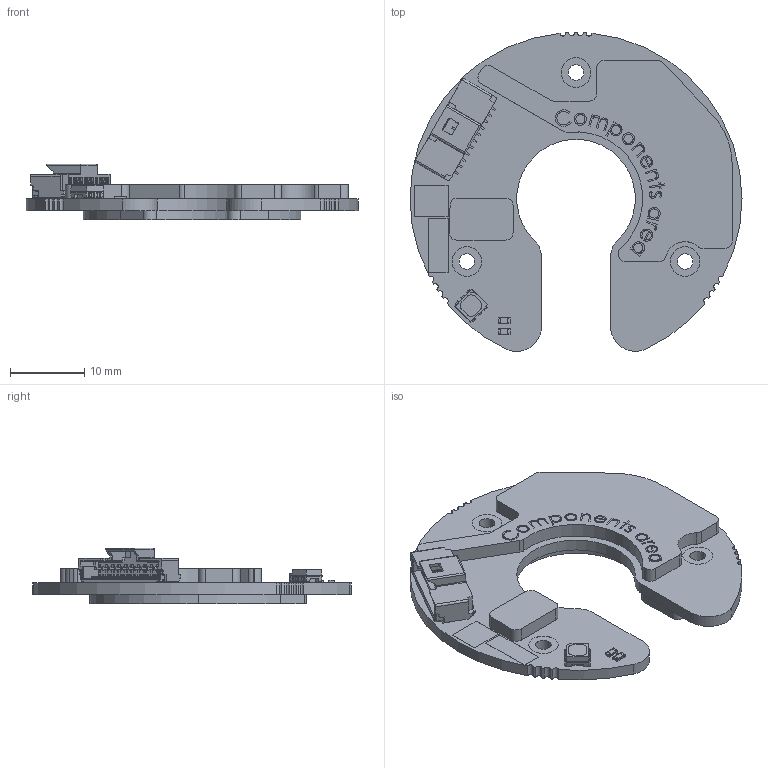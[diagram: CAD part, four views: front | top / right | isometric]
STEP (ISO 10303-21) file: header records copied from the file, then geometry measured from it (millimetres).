
FILE_DESCRIPTION (( 'STEP AP214' ), '1' );
FILE_NAME ('Orbis_fi16_v04_s_konektorjem_pokrov.STEP', '2024-01-23T06:50:48', ( '' ), ( '' ), 'SwSTEP 2.0', 'SolidWorks 2022', '' );
FILE_SCHEMA (( 'AUTOMOTIVE_DESIGN' ));
Length unit declared in the file: millimetre
Products named in the file (1): Orbis_fi16_v04_s_konektorjem_pokrov
Bounding box: 44.8 x 43.02 x 7.55 mm (x, y, z)
Volume: 3387.4 mm3; surface area: 3855 mm2
Topology: 4 solids, 4 shells, 1819 faces, 4945 edges, 3186 vertices
Faces by surface type: plane 1202, cylinder 275, bspline 250, cone 92
Entity records: 87771 total; most frequent: CARTESIAN_POINT 22911, ORIENTED_EDGE 9888, DIRECTION 8217, EDGE_CURVE 4944, VECTOR 3801, LINE 3801, VERTEX_POINT 3186, AXIS2_PLACEMENT_3D 2208
